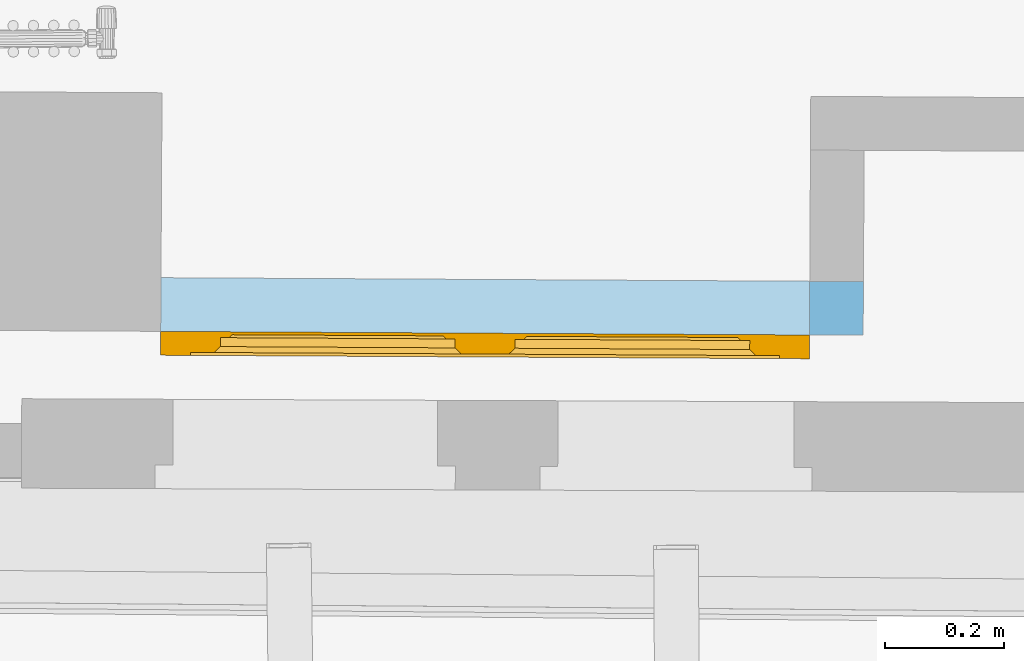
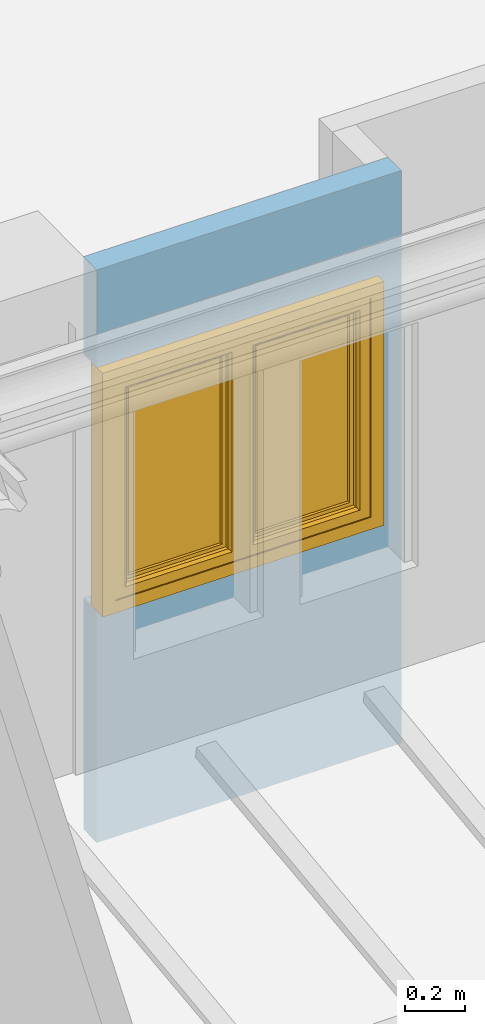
# One storey, part 41 of 72: 1 window, 1 opening, plus 1 element that does not belong to this part.
"""IFC2X3 building model written with IfcOpenShell, lengths in centimetres."""

from ifc_helpers import new_model, entity, si_unit, converted_unit, direction, frame, origin, origin_with_axes, origin_2d_with_axis, place, context, subcontext, project, spatial, polyline, rectangle, outline, extrude, faceted_brep, shape, source, transform, mapped, material, material_list, layer, layer_set, layer_usage, type_object, element, fill, save


model = new_model("IFC2X3")

# Units and contexts
model_context = context("Model", 3, precision=0.0001, world=origin(), true_north=direction((0.225632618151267, 0.974212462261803, 0.0)))
body_context = subcontext(model_context, "Body", "Model", "MODEL_VIEW")
footprint_context = subcontext(model_context, "FootPrint", "Model", "MODEL_VIEW")
profile_context = subcontext(model_context, "Profile", "Model", "MODEL_VIEW")
ifc_project = project(units=[si_unit("LENGTHUNIT", "METRE", prefix="CENTI"), si_unit("AREAUNIT", "SQUARE_METRE", prefix="CENTI"), si_unit("VOLUMEUNIT", "CUBIC_METRE", prefix="CENTI"), converted_unit("PLANEANGLEUNIT", "DEGREE", entity("IfcRatioMeasure", 0.0174532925), si_unit("PLANEANGLEUNIT", "RADIAN"), dimensions=[0, 0, 0, 0, 0, 0, 0])], contexts=[model_context])

# Site, building, storey
site_placement = place(None, origin_with_axes())
site = spatial("IfcSite", under=ifc_project, at=site_placement, Name="Default Site", CompositionType="ELEMENT")
building_placement = place(site_placement, origin_with_axes())
building = spatial("IfcBuilding", under=site, at=building_placement, Name="Default Building", CompositionType="ELEMENT")
storey_placement = place(building_placement, frame((0.0, 0.0, 853.910374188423), z_axis=(0.0, 0.0, 1.0), x_axis=(1.0, 0.0, 0.0)))
storey = spatial("IfcBuildingStorey", under=building, at=storey_placement, Name="Niveau 2", CompositionType="ELEMENT", Elevation=853.910374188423)

# Wall, opening, window
ifc_material_1 = material(Name="<aucun>")
ifc_layer = layer(ifc_material_1, 9.0)
ifc_layer_set = layer_set([ifc_layer], Name="default")
ifc_layer_usage = layer_usage(ifc_layer_set, "AXIS2", "POSITIVE", -4.5)
wall_type = type_object("IfcWallType", Name="default 90", PredefinedType="NOTDEFINED", material=ifc_layer_set)
wall_placement = place(storey_placement, frame((-449.639695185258, -713.728784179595, 1.4210854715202e-12), z_axis=(0.0, 0.0, 1.0), x_axis=(-0.999984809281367, 0.00551191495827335, 0.0)))
wall = element("IfcWallStandardCase", 1, at=wall_placement, inside=storey, type_object=wall_type, material=ifc_layer_usage, Name="Enveloppe 468995", context=body_context, shape_type="SweptSolid", body=[
    extrude(rectangle(XDim=9.0000000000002, YDim=117.764109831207, at=origin_2d_with_axis()), frame((54.3820549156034, 0.0, 3.5527136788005e-13), z_axis=(0.0, 0.0, 1.0), x_axis=(9.97812943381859e-15, -1.0, 0.0)), (0.0, 0.0, 1.0), 234.999999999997),
])
opening_placement = place(wall_placement, frame((4.50000000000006, -1.13686837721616e-13, 94.9999999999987), z_axis=(0.0, 0.0, 1.0), x_axis=(-1.0, -3.55618312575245e-16, 0.0)))
cartesian_point_1 = entity("IfcCartesianPoint", [0.0, -8.88178419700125e-14, 100.0])
cartesian_point_2 = entity("IfcCartesianPoint", [-108.764109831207, -4.49999999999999])
opening = element("IfcOpeningElement", 2, at=opening_placement, cuts=wall, Name="4294966433_11", ObjectType="Opening", shapes=[
    shape(body_context, "Body", "SweptSolid", [extrude(outline(polyline([(0.0, 100.0), (0.0, 1.77635683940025e-13), (108.764109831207, 1.77635683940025e-13), (108.764109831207, 100.0), (0.0, 100.0)])), frame((0.0, -14.5, 0.0), z_axis=(0.0, 1.0, 0.0), x_axis=(-1.0, 0.0, 0.0)), (0.0, 0.0, 1.0), 29.0)]),
    shape(profile_context, "Profile", "GeometricCurveSet", [entity("IfcGeometricCurveSet", [entity("IfcPolyline", [cartesian_point_1, entity("IfcCartesianPoint", [0.0, -8.88178419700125e-14, 1.77635683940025e-13]), entity("IfcCartesianPoint", [-108.764109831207, 0.0, 1.77635683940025e-13]), entity("IfcCartesianPoint", [-108.764109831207, 0.0, 100.0]), cartesian_point_1])])]),
    shape(footprint_context, "FootPrint", "GeometricCurveSet", [entity("IfcGeometricCurveSet", [entity("IfcPolyline", [cartesian_point_2, entity("IfcCartesianPoint", [0.0, -4.50000000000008]), entity("IfcCartesianPoint", [8.88178419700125e-14, 4.49999999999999]), entity("IfcCartesianPoint", [-108.764109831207, 4.49999999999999]), cartesian_point_2])])]),
])
ifc_material_2 = material(Name="Transparent")
ifc_material_3 = material(Name="Jaune 255-255-0")
ifc_material_4 = material(Name="Aluminium satiné")
ifc_material_list = material_list([ifc_material_2, ifc_material_3, ifc_material_4])
window_style = type_object("IfcWindowStyle", Name="FN[R] 2VB[1V] MM", ConstructionType="NOTDEFINED", OperationType="DOUBLE_PANEL_VERTICAL", ParameterTakesPrecedence=True, Sizeable=False, material=ifc_material_list)
shared_shape = source(origin_with_axes(), body_context, "Body", "Brep", [
    faceted_brep([(-49.3820548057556, 94.9999988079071, -3.99999991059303), (-49.3820548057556, 94.9999988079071, 3.99999991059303), (-49.3820548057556, 5.00000007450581, 3.99999991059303), (-49.3820548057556, 5.00000007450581, -3.99999991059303), (-54.3820559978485, 100.0, 3.99999991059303), (-54.3820559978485, -1.11022302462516e-14, 3.99999991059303), (-54.3820559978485, 100.0, -3.99999991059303), (-54.3820559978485, -1.11022302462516e-14, -3.99999991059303), (49.3820548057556, 5.0000000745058, 3.99999991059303), (49.3820548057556, 5.0000000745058, -3.99999991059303), (54.3820559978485, -1.11022302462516e-14, 3.99999991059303), (49.3820548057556, 5.00000007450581, 3.99999991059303), (54.3820559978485, -1.11022302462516e-14, -3.99999991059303), (49.3820548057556, 5.00000007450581, -3.99999991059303), (49.3820548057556, 94.9999988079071, 3.99999991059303), (49.3820548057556, 94.9999988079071, -3.99999991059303), (54.3820559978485, 100.0, 3.99999991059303), (54.3820559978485, 100.0, -3.99999991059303)], [[[0, 1, 2, 3]], [[1, 4, 5, 2]], [[4, 6, 7, 5]], [[6, 0, 3, 7]], [[3, 2, 8, 9]], [[2, 5, 10, 11]], [[5, 7, 12, 10]], [[7, 3, 13, 12]], [[13, 11, 14, 15]], [[11, 10, 16, 14]], [[10, 12, 17, 16]], [[12, 13, 15, 17]], [[15, 14, 1, 0]], [[14, 16, 4, 1]], [[16, 17, 6, 4]], [[17, 15, 0, 6]]]),
    faceted_brep([(-45.3820556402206, 91.0000026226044, -3.50000001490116), (-44.3820546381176, 89.9999976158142, -2.49999901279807), (-44.3820546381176, 10.0000001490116, -2.49999901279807), (-45.3820556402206, 9.00000035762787, -3.50000001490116), (-44.3820536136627, 89.9999976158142, -2.5000000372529), (-44.3820536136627, 89.9999976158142, 3.50000001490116), (-44.3820536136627, 10.0000001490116, 3.50000001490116), (-44.3820536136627, 10.0000001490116, -2.5000000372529), (-49.3820548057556, 94.9999988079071, 3.50000001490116), (-49.3820548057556, 5.00000007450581, 3.50000001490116), (-49.3820548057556, 94.9999988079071, -3.50000001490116), (-49.3820548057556, 5.00000007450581, -3.50000001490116), (-44.3820536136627, 10.0000002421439, -2.50000013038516), (-5.00000007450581, 10.0000002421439, -2.50000013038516), (-3.99999991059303, 9.00000035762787, -3.50000001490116), (-5.00000007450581, 10.0000001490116, 3.50000001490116), (-5.00000007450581, 10.0000001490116, -2.5000000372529), (-8.32667268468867e-14, 5.00000007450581, 3.50000001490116), (-8.32667268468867e-14, 5.00000007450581, -3.50000001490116), (-4.99999998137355, 10.0000001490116, -2.49999994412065), (-4.99999998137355, 89.9999976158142, -2.49999994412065), (-3.99999991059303, 91.0000026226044, -3.50000001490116), (-5.00000007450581, 89.9999976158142, 3.50000001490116), (-5.00000007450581, 89.9999976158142, -2.5000000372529), (-7.7715611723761e-14, 94.9999988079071, 3.50000001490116), (-7.77156115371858e-14, 94.9999988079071, -3.50000001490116), (-7.77156115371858e-14, 94.9999988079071, 3.50000001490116), (-7.7715611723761e-14, 94.9999988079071, -3.50000001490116), (-5.00000007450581, 90.0000001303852, -2.49999752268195), (-44.3820536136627, 90.0000001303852, -2.49999752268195)], [[[0, 1, 2, 3]], [[4, 5, 6, 7]], [[5, 8, 9, 6]], [[8, 10, 11, 9]], [[10, 0, 3, 11]], [[3, 12, 13, 14]], [[7, 6, 15, 16]], [[6, 9, 17, 15]], [[9, 11, 18, 17]], [[11, 3, 14, 18]], [[14, 19, 20, 21]], [[16, 15, 22, 23]], [[15, 17, 24, 22]], [[17, 18, 25, 26]], [[18, 14, 21, 27]], [[21, 28, 29, 0]], [[23, 22, 5, 4]], [[22, 24, 8, 5]], [[24, 27, 10, 8]], [[27, 21, 0, 10]]]),
    faceted_brep([(-42.8820550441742, 88.4999990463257, -0.999999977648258), (-42.3820552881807, 87.9999995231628, -0.500000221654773), (-42.3820552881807, 11.9999997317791, -0.500000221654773), (-42.8820550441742, 11.5000002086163, -0.999999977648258), (-42.3820555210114, 87.9999995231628, -0.499999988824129), (-42.3820555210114, 87.9999995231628, 0.499999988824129), (-42.3820555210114, 11.9999997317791, 0.499999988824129), (-42.3820555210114, 11.9999997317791, -0.499999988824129), (-42.8820552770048, 88.4999990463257, 0.999999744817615), (-42.8820552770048, 11.5000002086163, 0.999999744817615), (-42.8820550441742, 88.4999990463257, 0.999999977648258), (-44.3820536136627, 89.9999976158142, 0.999999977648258), (-44.3820536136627, 10.0000001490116, 0.999999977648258), (-42.8820550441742, 11.5000002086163, 0.999999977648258), (-44.3820536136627, 89.9999976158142, -0.999999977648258), (-44.3820536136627, 10.0000001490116, -0.999999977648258), (-42.3820555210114, 11.9999999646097, -0.500000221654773), (-7.00000002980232, 11.9999999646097, -0.500000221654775), (-6.49999976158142, 11.5000002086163, -0.99999997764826), (-7.00000002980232, 11.9999997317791, 0.499999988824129), (-7.00000002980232, 11.9999997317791, -0.499999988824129), (-42.8820550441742, 11.4999999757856, 0.999999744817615), (-6.49999976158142, 11.4999999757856, 0.999999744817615), (-5.00000007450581, 10.0000001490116, 0.999999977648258), (-6.49999976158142, 11.5000002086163, 0.999999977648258), (-5.00000007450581, 10.0000001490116, -0.999999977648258), (-6.49999976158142, 11.5000002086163, -0.999999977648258), (-6.99999989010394, 11.9999997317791, -0.499999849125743), (-6.99999989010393, 87.9999995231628, -0.499999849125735), (-6.49999976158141, 88.4999990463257, -0.99999997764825), (-7.00000002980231, 87.9999995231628, 0.499999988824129), (-7.00000002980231, 87.9999995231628, -0.499999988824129), (-6.49999990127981, 11.5000002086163, 1.00000011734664), (-6.4999999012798, 88.4999990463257, 1.00000011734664), (-7.00000002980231, 87.9999995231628, 0.499999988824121), (-5.00000007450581, 89.9999976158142, 0.999999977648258), (-6.49999976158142, 88.4999990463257, 0.999999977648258), (-5.0000000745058, 89.9999976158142, -0.999999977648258), (-5.0000000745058, 89.9999976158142, 0.999999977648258), (-6.49999976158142, 88.4999990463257, -0.999999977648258), (-5.00000007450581, 89.9999976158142, -0.999999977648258), (-7.00000002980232, 87.9999992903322, -0.500000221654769), (-42.3820555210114, 87.9999992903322, -0.500000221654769), (-42.8820550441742, 88.4999990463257, -0.99999997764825), (-7.00000002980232, 87.9999995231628, -0.499999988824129), (-7.00000002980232, 87.9999995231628, 0.499999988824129), (-42.3820555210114, 87.9999995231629, 0.499999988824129), (-42.3820555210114, 87.9999995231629, -0.499999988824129), (-6.49999976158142, 88.4999992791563, 0.999999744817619), (-42.8820550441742, 88.4999992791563, 0.999999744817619)], [[[0, 1, 2, 3]], [[4, 5, 6, 7]], [[5, 8, 9, 6]], [[10, 11, 12, 13]], [[11, 14, 15, 12]], [[14, 0, 3, 15]], [[3, 16, 17, 18]], [[7, 6, 19, 20]], [[6, 21, 22, 19]], [[13, 12, 23, 24]], [[12, 15, 25, 23]], [[15, 3, 26, 25]], [[26, 27, 28, 29]], [[20, 19, 30, 31]], [[19, 32, 33, 34]], [[24, 23, 35, 36]], [[23, 25, 37, 38]], [[25, 26, 39, 40]], [[39, 41, 42, 43]], [[44, 45, 46, 47]], [[45, 48, 49, 5]], [[36, 35, 11, 10]], [[35, 40, 14, 11]], [[40, 39, 0, 14]]]),
    faceted_brep([(-7.00000002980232, 87.9999995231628, -0.499999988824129), (-7.00000002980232, 11.9999997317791, -0.499999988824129), (-42.3820555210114, 11.9999997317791, -0.499999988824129), (-42.3820555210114, 87.9999995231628, -0.499999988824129), (-42.3820555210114, 87.9999995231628, 0.499999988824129), (-42.3820555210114, 11.9999997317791, 0.499999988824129), (-7.00000002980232, 11.9999997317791, 0.499999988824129), (-7.00000002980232, 87.9999995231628, 0.499999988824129)], [[[0, 1, 2, 3]], [[4, 5, 6, 7]], [[3, 2, 5, 4]], [[2, 1, 6, 5]], [[1, 0, 7, 6]], [[0, 3, 4, 7]]]),
    faceted_brep([(3.99999991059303, 91.0000026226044, -3.50000001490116), (4.99999998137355, 89.9999976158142, -2.49999994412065), (4.99999998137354, 10.0000001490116, -2.49999994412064), (3.99999991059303, 9.00000035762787, -3.50000001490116), (5.00000007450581, 89.9999976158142, -2.5000000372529), (5.00000007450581, 89.9999976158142, 3.50000001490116), (5.0000000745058, 10.0000001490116, 3.50000001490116), (5.0000000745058, 10.0000001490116, -2.5000000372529), (-7.7715611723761e-14, 94.9999988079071, 3.50000001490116), (-8.32667268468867e-14, 5.00000007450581, 3.50000001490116), (5.00000007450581, 10.0000001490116, 3.50000001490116), (-7.7715611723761e-14, 94.9999988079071, -3.50000001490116), (-8.32667270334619e-14, 5.00000007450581, -3.50000001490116), (-8.32667270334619e-14, 5.00000007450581, 3.50000001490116), (-8.32667268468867e-14, 5.00000007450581, -3.50000001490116), (5.00000007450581, 10.0000002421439, -2.50000013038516), (44.3820536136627, 10.0000002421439, -2.50000013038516), (45.3820556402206, 9.00000035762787, -3.50000001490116), (5.00000007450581, 10.0000001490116, -2.5000000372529), (44.3820536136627, 10.0000001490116, 3.50000001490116), (44.3820536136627, 10.0000001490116, -2.5000000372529), (49.3820548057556, 5.00000007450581, 3.50000001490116), (49.3820548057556, 5.00000007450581, -3.50000001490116), (44.3820546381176, 10.0000001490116, -2.49999901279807), (44.3820546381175, 89.9999976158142, -2.49999901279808), (45.3820556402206, 91.0000026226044, -3.50000001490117), (44.3820536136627, 89.9999976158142, 3.50000001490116), (44.3820536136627, 89.9999976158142, -2.5000000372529), (49.3820548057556, 94.9999988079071, 3.50000001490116), (49.3820548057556, 94.9999988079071, -3.50000001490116), (45.3820556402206, 91.0000026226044, -3.50000001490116), (44.3820536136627, 90.0000001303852, -2.49999752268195), (5.00000007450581, 90.0000001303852, -2.49999752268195)], [[[0, 1, 2, 3]], [[4, 5, 6, 7]], [[5, 8, 9, 10]], [[8, 11, 12, 13]], [[11, 0, 3, 14]], [[3, 15, 16, 17]], [[18, 10, 19, 20]], [[10, 9, 21, 19]], [[9, 14, 22, 21]], [[14, 3, 17, 22]], [[17, 23, 24, 25]], [[20, 19, 26, 27]], [[19, 21, 28, 26]], [[21, 22, 29, 28]], [[22, 17, 30, 29]], [[30, 31, 32, 0]], [[27, 26, 5, 4]], [[26, 28, 8, 5]], [[28, 29, 11, 8]], [[29, 30, 0, 11]]]),
    faceted_brep([(4.50000017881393, 51.9999980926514, 3.50000001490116), (4.50000017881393, 47.9999989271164, 3.50000001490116), (0.499999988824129, 47.9999989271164, 3.50000001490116), (0.499999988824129, 51.9999980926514, 3.50000001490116), (0.499999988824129, 51.9999980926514, 4.30000014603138), (0.499999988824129, 47.9999989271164, 4.30000014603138), (4.50000017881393, 47.9999989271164, 4.30000014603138), (4.50000017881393, 51.9999980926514, 4.30000014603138)], [[[0, 1, 2, 3]], [[4, 5, 6, 7]], [[3, 2, 5, 4]], [[2, 1, 6, 5]], [[1, 0, 7, 6]], [[0, 3, 4, 7]]]),
    faceted_brep([(3.24999988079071, 50.4999995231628, 4.30000014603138), (3.24999988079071, 49.5000004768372, 4.30000014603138), (1.75000000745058, 49.5000004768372, 4.30000014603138), (1.75000000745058, 50.4999995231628, 4.30000014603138), (1.75000000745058, 50.4999995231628, 8.29999968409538), (1.75000000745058, 49.5000001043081, 7.30000026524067), (3.24999988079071, 49.5000001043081, 7.30000026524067), (3.24999988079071, 50.4999995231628, 8.29999968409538), (1.75000000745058, 49.5000004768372, 7.29999989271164), (3.24999988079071, 49.5000004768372, 7.29999989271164)], [[[0, 1, 2, 3]], [[4, 5, 6, 7]], [[3, 2, 8, 4]], [[2, 1, 9, 8]], [[1, 0, 7, 9]], [[0, 3, 4, 7]]]),
    faceted_brep([(3.24999988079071, 50.4999995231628, 8.29999968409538), (3.24999988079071, 49.5000001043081, 7.30000026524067), (1.75000000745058, 49.5000001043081, 7.30000026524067), (1.75000000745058, 50.4999995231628, 8.29999968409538), (1.75000000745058, 37.5, 8.29999968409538), (1.75000000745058, 37.5, 7.29999989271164), (3.24999988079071, 37.5, 7.29999989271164), (3.24999988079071, 37.5, 8.29999968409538), (1.75000000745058, 49.5000004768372, 7.29999989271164), (3.24999988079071, 49.5000004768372, 7.29999989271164)], [[[0, 1, 2, 3]], [[4, 5, 6, 7]], [[3, 8, 5, 4]], [[8, 9, 6, 5]], [[9, 0, 7, 6]], [[0, 3, 4, 7]]]),
    faceted_brep([(6.49999976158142, 88.4999990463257, -0.999999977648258), (6.99999989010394, 87.9999995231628, -0.499999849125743), (6.99999989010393, 11.9999997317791, -0.499999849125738), (6.49999976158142, 11.5000002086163, -0.999999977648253), (7.00000002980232, 87.9999995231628, -0.499999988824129), (7.00000002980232, 87.9999995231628, 0.499999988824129), (7.00000002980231, 11.9999997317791, 0.499999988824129), (7.00000002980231, 11.9999997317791, -0.499999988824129), (6.49999990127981, 88.4999990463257, 1.00000011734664), (6.4999999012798, 11.5000002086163, 1.00000011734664), (7.00000002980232, 11.9999997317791, 0.499999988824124), (6.49999976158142, 88.4999990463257, 0.999999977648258), (5.00000007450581, 89.9999976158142, 0.999999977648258), (5.00000007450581, 10.0000001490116, 0.999999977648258), (6.49999976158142, 11.5000002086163, 0.999999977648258), (5.00000007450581, 89.9999976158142, -0.999999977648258), (5.00000007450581, 10.0000001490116, -0.999999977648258), (6.49999976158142, 11.5000002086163, -0.999999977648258), (7.00000002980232, 11.9999999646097, -0.500000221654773), (42.3820555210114, 11.9999999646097, -0.500000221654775), (42.8820550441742, 11.5000002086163, -0.99999997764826), (7.00000002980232, 11.9999997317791, -0.499999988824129), (7.00000002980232, 11.9999997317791, 0.499999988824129), (42.3820555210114, 11.9999997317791, 0.499999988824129), (42.3820555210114, 11.9999997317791, -0.499999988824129), (6.49999976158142, 11.4999999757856, 0.999999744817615), (42.8820550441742, 11.4999999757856, 0.999999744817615), (44.3820536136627, 10.0000001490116, 0.999999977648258), (42.8820550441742, 11.5000002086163, 0.999999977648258), (44.3820536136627, 10.0000001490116, -0.999999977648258), (42.8820550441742, 11.5000002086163, -0.999999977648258), (42.3820552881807, 11.9999997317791, -0.500000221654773), (42.3820552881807, 87.9999995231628, -0.500000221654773), (42.8820550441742, 88.4999990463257, -0.999999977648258), (42.3820555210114, 87.9999995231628, 0.499999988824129), (42.3820555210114, 87.9999995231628, -0.499999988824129), (42.8820552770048, 11.5000002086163, 0.999999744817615), (42.8820552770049, 88.4999990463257, 0.999999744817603), (42.3820555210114, 87.9999995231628, 0.499999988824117), (44.3820536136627, 89.9999976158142, 0.999999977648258), (42.8820550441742, 88.4999990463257, 0.999999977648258), (44.3820536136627, 89.9999976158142, -0.999999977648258), (42.3820555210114, 87.9999992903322, -0.500000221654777), (7.00000002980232, 87.9999992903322, -0.500000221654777), (6.49999976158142, 88.4999990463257, -0.999999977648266), (42.8820550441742, 88.4999992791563, 0.999999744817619), (6.49999976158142, 88.4999992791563, 0.999999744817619)], [[[0, 1, 2, 3]], [[4, 5, 6, 7]], [[5, 8, 9, 10]], [[11, 12, 13, 14]], [[12, 15, 16, 13]], [[15, 0, 17, 16]], [[17, 18, 19, 20]], [[21, 22, 23, 24]], [[22, 25, 26, 23]], [[14, 13, 27, 28]], [[13, 16, 29, 27]], [[16, 17, 30, 29]], [[30, 31, 32, 33]], [[24, 23, 34, 35]], [[23, 36, 37, 38]], [[28, 27, 39, 40]], [[27, 29, 41, 39]], [[29, 30, 33, 41]], [[33, 42, 43, 44]], [[35, 34, 5, 4]], [[34, 45, 46, 5]], [[40, 39, 12, 11]], [[39, 41, 15, 12]], [[41, 33, 0, 15]]]),
    faceted_brep([(42.3820555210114, 87.9999995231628, -0.499999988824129), (42.3820555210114, 11.9999997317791, -0.499999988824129), (7.00000002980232, 11.9999997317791, -0.499999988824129), (7.00000002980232, 87.9999995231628, -0.499999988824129), (7.00000002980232, 87.9999995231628, 0.499999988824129), (7.00000002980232, 11.9999997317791, 0.499999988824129), (42.3820555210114, 11.9999997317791, 0.499999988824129), (42.3820555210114, 87.9999995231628, 0.499999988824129), (7.00000002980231, 11.9999997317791, -0.499999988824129), (7.00000002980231, 11.9999997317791, 0.499999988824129)], [[[0, 1, 2, 3]], [[4, 5, 6, 7]], [[3, 8, 9, 4]], [[2, 1, 6, 5]], [[1, 0, 7, 6]], [[0, 3, 4, 7]]]),
])
window_placement = place(opening_placement, frame((-108.764109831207, -8.50000000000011, 1.4210854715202e-14), z_axis=(0.0, 0.0, 1.0), x_axis=(1.0, 0.0, 0.0)))
window = element("IfcWindow", 3, at=window_placement, inside=storey, type_object=window_style, material=ifc_material_list, Name="Fenêtre 158942", OverallHeight=100.0, OverallWidth=108.764109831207, context=body_context, shape_type="MappedRepresentation", body=[
    mapped(shared_shape, transform((54.3820549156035, 4.0, -3.5527136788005e-13), x_axis=(-1.0, 0.0, 0.0), y_axis=(0.0, 0.0, 1.0), z_axis=(0.0, 1.0, 0.0), scale=1.0, scale2=1.0, scale3=1.0, uniform=False)),
])
fill(opening, window)

save(model, "model.ifc")
